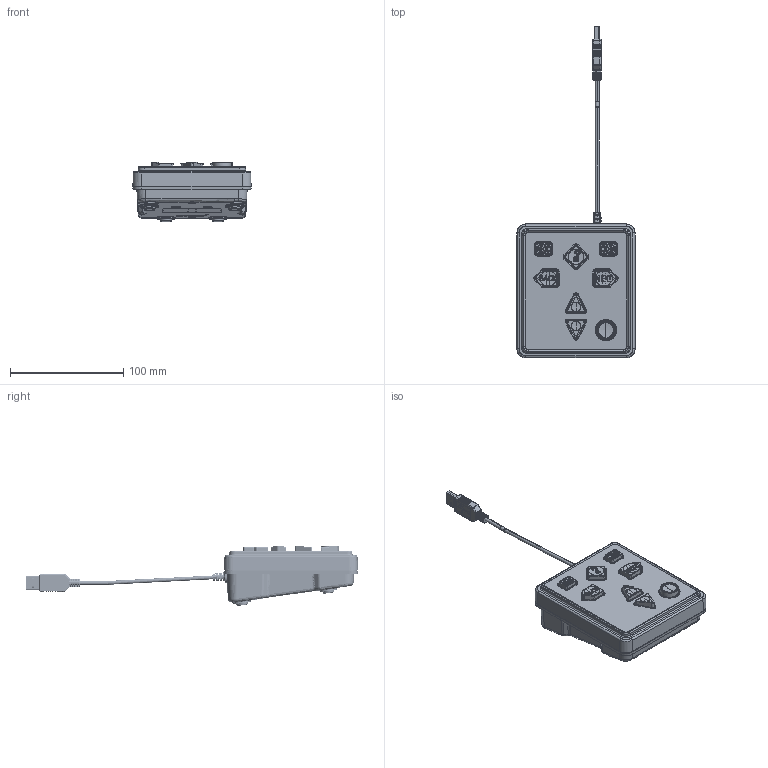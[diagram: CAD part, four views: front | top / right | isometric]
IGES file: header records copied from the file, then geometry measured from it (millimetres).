
Start section: SolidWorks IGES file using NURBS representation for surfaces
Global section: file name: C:\Users\anthonyc\Desktop\EZ08-22200~1.IGS; native system: SolidWorks 2018; preprocessor: SolidWorks 2018; author: anthonyc; date: 200106.090416; units: millimetre
Bounding box: 104.5 x 293.47 x 53.01 mm (x, y, z)
Surface area: 118576.8 mm2 (no closed solid volume)
Topology: 0 solids, 0 shells, 3698 faces, 33376 edges, 33262 vertices
Faces by surface type: bspline 3698
